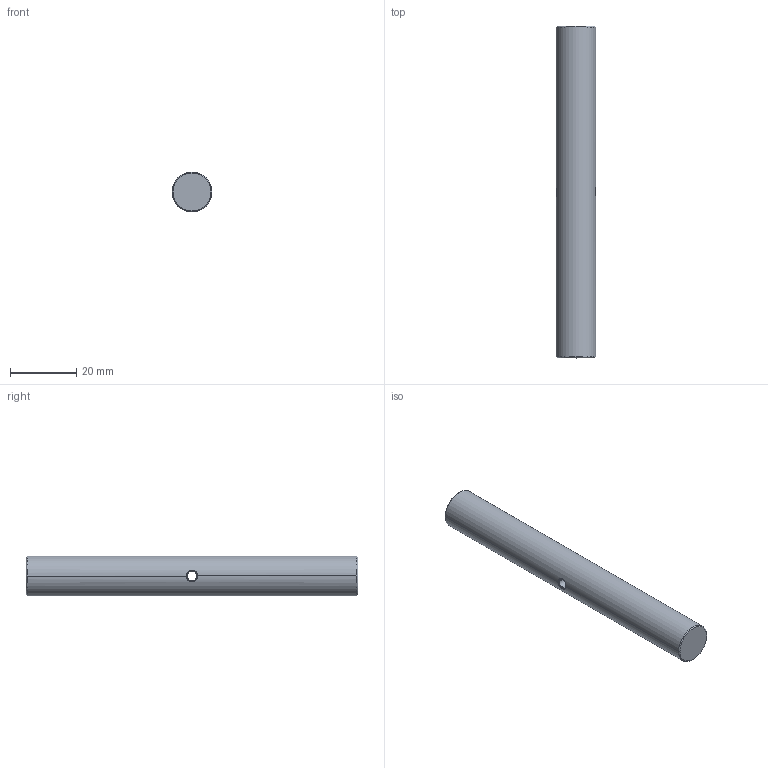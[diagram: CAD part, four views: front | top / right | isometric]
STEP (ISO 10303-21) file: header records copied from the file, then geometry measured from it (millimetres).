
FILE_DESCRIPTION((''),'2;1');
FILE_NAME('PCA100-M4','2020-12-11T',('Administrator'),(''),'CREO PARAMETRIC BY PTC INC, 2015290','CREO PARAMETRIC BY PTC INC, 2015290','');
FILE_SCHEMA(('CONFIG_CONTROL_DESIGN'));
Length unit declared in the file: millimetre
Products named in the file (1): PCA100-M4
Bounding box: 12 x 100 x 12 mm (x, y, z)
Volume: 11143.1 mm3; surface area: 4206 mm2
Topology: 1 solids, 1 shells, 47 faces, 123 edges, 75 vertices
Faces by surface type: cylinder 23, bspline 14, cone 8, plane 2
Entity records: 3284 total; most frequent: CARTESIAN_POINT 2258, ORIENTED_EDGE 242, DIRECTION 139, EDGE_CURVE 121, VERTEX_POINT 75, B_SPLINE_CURVE_WITH_KNOTS 62, EDGE_LOOP 48, AXIS2_PLACEMENT_3D 47
